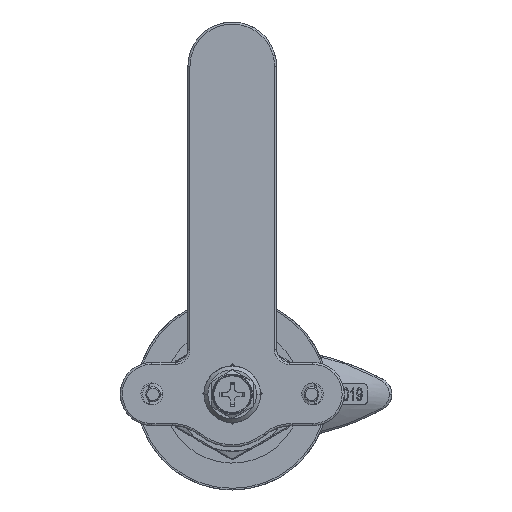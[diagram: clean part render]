
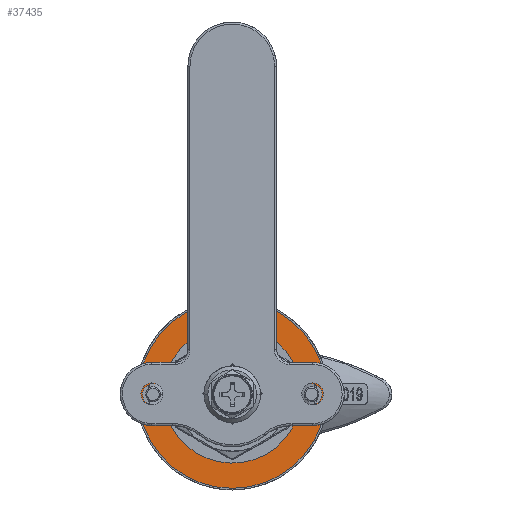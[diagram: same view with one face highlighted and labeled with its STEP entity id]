
A CAD part, front view. The second image highlights one B-rep face of the part: STEP entity #37435.
In plain terms, the highlighted planar face has unit normal (0, -1, 0).
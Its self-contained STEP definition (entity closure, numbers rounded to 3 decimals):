
#1008 = DIRECTION ( 'NONE',  ( 0., 1., 0. ) ) ;
#2439 = DIRECTION ( 'NONE',  ( 0., 0., 1. ) ) ;
#3729 = CARTESIAN_POINT ( 'NONE',  ( -18.75, -1., -2.5 ) ) ;
#4750 = AXIS2_PLACEMENT_3D ( 'NONE', #42857, #23780, #48964 ) ;
#6417 = EDGE_CURVE ( 'NONE', #44087, #50478, #27727, .T. ) ;
#7699 = DIRECTION ( 'NONE',  ( -1., 0., 0. ) ) ;
#7880 = AXIS2_PLACEMENT_3D ( 'NONE', #59131, #9132, #22158 ) ;
#8429 = EDGE_CURVE ( 'NONE', #64371, #63764, #64884, .T. ) ;
#8903 = VECTOR ( 'NONE', #45624, 1000. ) ;
#9001 = DIRECTION ( 'NONE',  ( 0., 0., 1. ) ) ;
#9132 = DIRECTION ( 'NONE',  ( 0., 1., 0. ) ) ;
#9625 = DIRECTION ( 'NONE',  ( 0., 0., 1. ) ) ;
#10339 = DIRECTION ( 'NONE',  ( 0., 0., 1. ) ) ;
#10849 = DIRECTION ( 'NONE',  ( 0., 0., 1. ) ) ;
#12043 = DIRECTION ( 'NONE',  ( 0., 1., 0. ) ) ;
#13792 = CARTESIAN_POINT ( 'NONE',  ( 11.225, -1., -2.5 ) ) ;
#14159 = ORIENTED_EDGE ( 'NONE', *, *, #39211, .T. ) ;
#14657 = CARTESIAN_POINT ( 'NONE',  ( -11.225, -1., 2.5 ) ) ;
#18150 = CARTESIAN_POINT ( 'NONE',  ( 18.75, -1., 0. ) ) ;
#19937 = CARTESIAN_POINT ( 'NONE',  ( 18.75, -1., -2.5 ) ) ;
#20168 = CARTESIAN_POINT ( 'NONE',  ( 11.225, -1., -2.5 ) ) ;
#22158 = DIRECTION ( 'NONE',  ( 0., 0., 1. ) ) ;
#22978 = AXIS2_PLACEMENT_3D ( 'NONE', #18150, #12043, #10849 ) ;
#23745 = ORIENTED_EDGE ( 'NONE', *, *, #48193, .T. ) ;
#23780 = DIRECTION ( 'NONE',  ( 0., 1., 0. ) ) ;
#24659 = CARTESIAN_POINT ( 'NONE',  ( 11.225, -1., -2.5 ) ) ;
#25838 = DIRECTION ( 'NONE',  ( -1., 0., 0. ) ) ;
#25962 = ORIENTED_EDGE ( 'NONE', *, *, #39803, .T. ) ;
#26614 = DIRECTION ( 'NONE',  ( 0., 0., 1. ) ) ;
#27727 = LINE ( 'NONE', #28116, #8903 ) ;
#27746 = LINE ( 'NONE', #59027, #68846 ) ;
#27966 = ORIENTED_EDGE ( 'NONE', *, *, #37243, .T. ) ;
#28116 = CARTESIAN_POINT ( 'NONE',  ( 18.75, -1., 2.5 ) ) ;
#28664 = CARTESIAN_POINT ( 'NONE',  ( 0., -1., 0. ) ) ;
#30052 = CARTESIAN_POINT ( 'NONE',  ( 0., -1., 0. ) ) ;
#30075 = EDGE_LOOP ( 'NONE', ( #58153, #37492 ) ) ;
#30410 = CIRCLE ( 'NONE', #32994, 22.25 ) ;
#30903 = VERTEX_POINT ( 'NONE', #20168 ) ;
#32994 = AXIS2_PLACEMENT_3D ( 'NONE', #68125, #1008, #26614 ) ;
#33019 = CARTESIAN_POINT ( 'NONE',  ( -11.225, -1., -2.5 ) ) ;
#33160 = CARTESIAN_POINT ( 'NONE',  ( 0., -1., 11.5 ) ) ;
#33172 = ORIENTED_EDGE ( 'NONE', *, *, #6417, .T. ) ;
#36354 = PLANE ( 'NONE',  #4750 ) ;
#36411 = CIRCLE ( 'NONE', #39010, 11.5 ) ;
#37243 = EDGE_CURVE ( 'NONE', #50478, #44986, #72338, .T. ) ;
#37435 = ADVANCED_FACE ( 'NONE', ( #59949, #41667 ), #36354, .F. ) ;
#37492 = ORIENTED_EDGE ( 'NONE', *, *, #61709, .F. ) ;
#39010 = AXIS2_PLACEMENT_3D ( 'NONE', #77555, #65341, #9625 ) ;
#39211 = EDGE_CURVE ( 'NONE', #63764, #44087, #36411, .T. ) ;
#39541 = DIRECTION ( 'NONE',  ( 1., 0., 0. ) ) ;
#39803 = EDGE_CURVE ( 'NONE', #52788, #64371, #27746, .T. ) ;
#39896 = CARTESIAN_POINT ( 'NONE',  ( 11.225, -1., 2.5 ) ) ;
#40026 = ORIENTED_EDGE ( 'NONE', *, *, #63148, .T. ) ;
#40617 = EDGE_CURVE ( 'NONE', #30903, #47803, #50745, .T. ) ;
#41667 = FACE_OUTER_BOUND ( 'NONE', #30075, .T. ) ;
#42857 = CARTESIAN_POINT ( 'NONE',  ( 0., -1., 0. ) ) ;
#44087 = VERTEX_POINT ( 'NONE', #39896 ) ;
#44631 = VERTEX_POINT ( 'NONE', #61241 ) ;
#44986 = VERTEX_POINT ( 'NONE', #19937 ) ;
#45380 = EDGE_LOOP ( 'NONE', ( #27966, #23745, #78502, #40026, #67214, #25962, #49187, #14159, #33172 ) ) ;
#45624 = DIRECTION ( 'NONE',  ( 1., 0., 0. ) ) ;
#46054 = VECTOR ( 'NONE', #7699, 1000. ) ;
#46671 = VERTEX_POINT ( 'NONE', #3729 ) ;
#47803 = VERTEX_POINT ( 'NONE', #33019 ) ;
#48193 = EDGE_CURVE ( 'NONE', #44986, #30903, #50656, .T. ) ;
#48538 = CARTESIAN_POINT ( 'NONE',  ( -18.75, -1., 2.5 ) ) ;
#48964 = DIRECTION ( 'NONE',  ( 0., 0., 1. ) ) ;
#49187 = ORIENTED_EDGE ( 'NONE', *, *, #8429, .T. ) ;
#50478 = VERTEX_POINT ( 'NONE', #54488 ) ;
#50656 = LINE ( 'NONE', #24659, #71281 ) ;
#50745 = CIRCLE ( 'NONE', #7880, 11.5 ) ;
#52788 = VERTEX_POINT ( 'NONE', #48538 ) ;
#53483 = CARTESIAN_POINT ( 'NONE',  ( 0., -1., -22.25 ) ) ;
#54488 = CARTESIAN_POINT ( 'NONE',  ( 18.75, -1., 2.5 ) ) ;
#56144 = CIRCLE ( 'NONE', #59846, 22.25 ) ;
#58153 = ORIENTED_EDGE ( 'NONE', *, *, #76096, .F. ) ;
#59027 = CARTESIAN_POINT ( 'NONE',  ( 18.75, -1., 2.5 ) ) ;
#59131 = CARTESIAN_POINT ( 'NONE',  ( 0., -1., 0. ) ) ;
#59754 = CARTESIAN_POINT ( 'NONE',  ( -18.75, -1., 0. ) ) ;
#59846 = AXIS2_PLACEMENT_3D ( 'NONE', #28664, #72198, #10339 ) ;
#59949 = FACE_BOUND ( 'NONE', #45380, .T. ) ;
#61241 = CARTESIAN_POINT ( 'NONE',  ( 0., -1., 22.25 ) ) ;
#61709 = EDGE_CURVE ( 'NONE', #76033, #44631, #30410, .T. ) ;
#63148 = EDGE_CURVE ( 'NONE', #47803, #46671, #69536, .T. ) ;
#63764 = VERTEX_POINT ( 'NONE', #33160 ) ;
#64371 = VERTEX_POINT ( 'NONE', #14657 ) ;
#64884 = CIRCLE ( 'NONE', #77918, 11.5 ) ;
#65341 = DIRECTION ( 'NONE',  ( 0., 1., 0. ) ) ;
#67052 = DIRECTION ( 'NONE',  ( 0., 1., 0. ) ) ;
#67214 = ORIENTED_EDGE ( 'NONE', *, *, #75666, .T. ) ;
#68125 = CARTESIAN_POINT ( 'NONE',  ( 0., -1., 0. ) ) ;
#68846 = VECTOR ( 'NONE', #39541, 1000. ) ;
#69536 = LINE ( 'NONE', #13792, #46054 ) ;
#71156 = DIRECTION ( 'NONE',  ( 0., 1., 0. ) ) ;
#71281 = VECTOR ( 'NONE', #25838, 1000. ) ;
#71654 = AXIS2_PLACEMENT_3D ( 'NONE', #59754, #71156, #2439 ) ;
#72198 = DIRECTION ( 'NONE',  ( 0., 1., 0. ) ) ;
#72338 = CIRCLE ( 'NONE', #22978, 2.5 ) ;
#75666 = EDGE_CURVE ( 'NONE', #46671, #52788, #78170, .T. ) ;
#76033 = VERTEX_POINT ( 'NONE', #53483 ) ;
#76096 = EDGE_CURVE ( 'NONE', #44631, #76033, #56144, .T. ) ;
#77555 = CARTESIAN_POINT ( 'NONE',  ( 0., -1., 0. ) ) ;
#77918 = AXIS2_PLACEMENT_3D ( 'NONE', #30052, #67052, #9001 ) ;
#78170 = CIRCLE ( 'NONE', #71654, 2.5 ) ;
#78502 = ORIENTED_EDGE ( 'NONE', *, *, #40617, .T. ) ;
